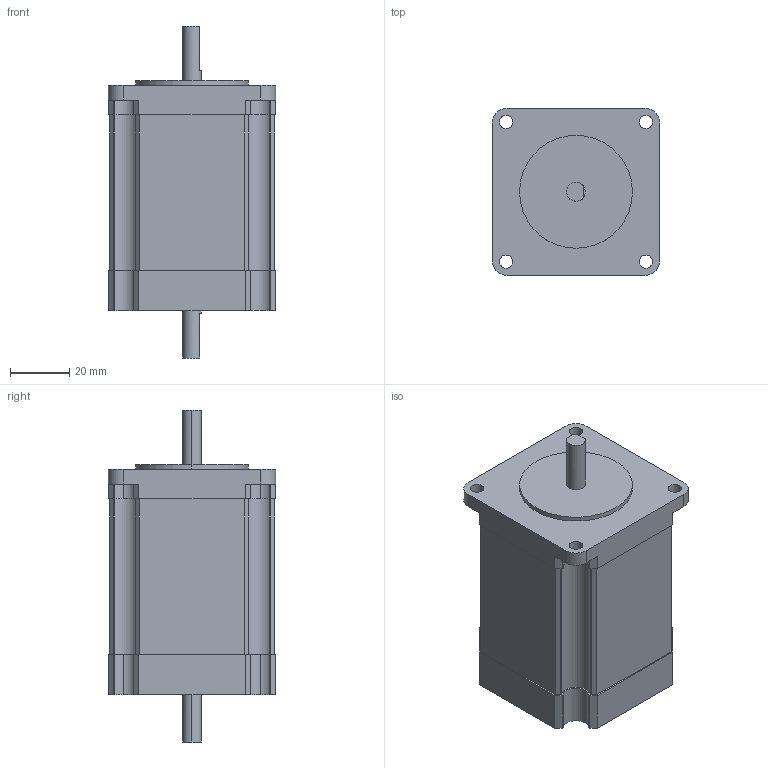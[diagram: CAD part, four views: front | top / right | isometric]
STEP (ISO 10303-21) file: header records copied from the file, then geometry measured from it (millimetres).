
FILE_DESCRIPTION (( 'STEP AP214' ), '1' );
FILE_NAME ('TS3690N13E7.STEP', '2016-09-09T01:43:38', ( 'hoho' ), ( '' ), 'SwSTEP 2.0', 'SolidWorks 2013', '' );
FILE_SCHEMA (( 'AUTOMOTIVE_DESIGN' ));
Length unit declared in the file: millimetre
Products named in the file (1): TS3690N13E7
Bounding box: 56.4 x 56.4 x 112 mm (x, y, z)
Volume: 215011.8 mm3; surface area: 24089.8 mm2
Topology: 1 solids, 1 shells, 117 faces, 330 edges, 220 vertices
Faces by surface type: cylinder 66, plane 51
Entity records: 4198 total; most frequent: DIRECTION 702, CARTESIAN_POINT 668, ORIENTED_EDGE 660, EDGE_CURVE 330, AXIS2_PLACEMENT_3D 254, VERTEX_POINT 220, LINE 194, VECTOR 194
